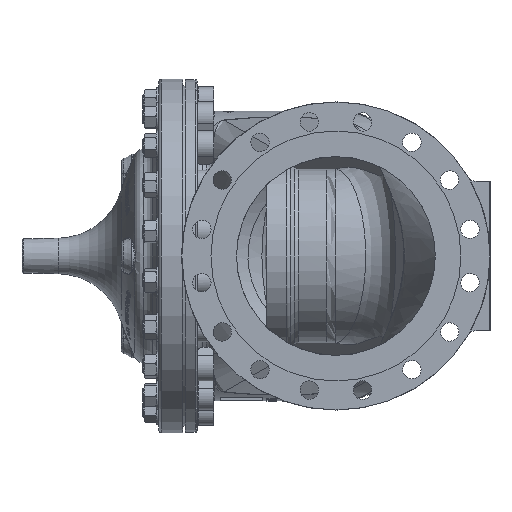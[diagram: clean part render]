
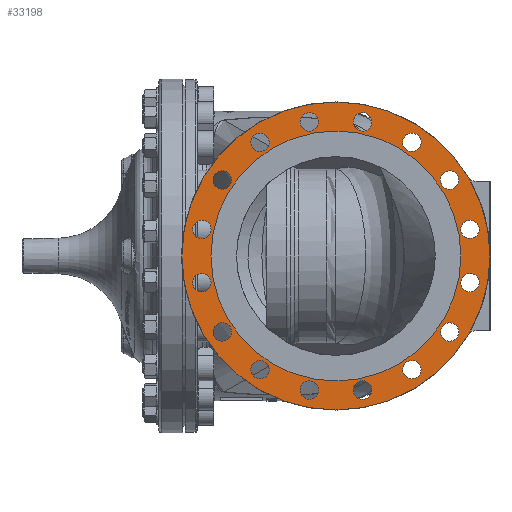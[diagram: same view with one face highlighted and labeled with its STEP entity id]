
A CAD part, left-side view. The second image highlights one B-rep face of the part: STEP entity #33198.
In plain terms, the highlighted planar face has unit normal (-1, 0, 0).
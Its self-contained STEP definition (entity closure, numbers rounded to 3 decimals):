
#5669=FACE_BOUND('',#8076,.T.);
#5670=FACE_BOUND('',#8077,.T.);
#5671=FACE_BOUND('',#8078,.T.);
#5672=FACE_BOUND('',#8079,.T.);
#5673=FACE_BOUND('',#8080,.T.);
#5674=FACE_BOUND('',#8081,.T.);
#5675=FACE_BOUND('',#8082,.T.);
#5676=FACE_BOUND('',#8083,.T.);
#5677=FACE_BOUND('',#8084,.T.);
#5678=FACE_BOUND('',#8085,.T.);
#5679=FACE_BOUND('',#8086,.T.);
#5680=FACE_BOUND('',#8087,.T.);
#5681=FACE_BOUND('',#8088,.T.);
#5682=FACE_BOUND('',#8089,.T.);
#5683=FACE_BOUND('',#8090,.T.);
#5684=FACE_BOUND('',#8091,.T.);
#5685=FACE_BOUND('',#8092,.T.);
#5900=FACE_OUTER_BOUND('',#8075,.T.);
#8075=EDGE_LOOP('',(#21874));
#8076=EDGE_LOOP('',(#21875));
#8077=EDGE_LOOP('',(#21876));
#8078=EDGE_LOOP('',(#21877));
#8079=EDGE_LOOP('',(#21878));
#8080=EDGE_LOOP('',(#21879));
#8081=EDGE_LOOP('',(#21880));
#8082=EDGE_LOOP('',(#21881));
#8083=EDGE_LOOP('',(#21882));
#8084=EDGE_LOOP('',(#21883));
#8085=EDGE_LOOP('',(#21884));
#8086=EDGE_LOOP('',(#21885));
#8087=EDGE_LOOP('',(#21886));
#8088=EDGE_LOOP('',(#21887));
#8089=EDGE_LOOP('',(#21888));
#8090=EDGE_LOOP('',(#21889));
#8091=EDGE_LOOP('',(#21890));
#8092=EDGE_LOOP('',(#21891));
#10377=CIRCLE('',#35361,18.5);
#10379=CIRCLE('',#35364,18.5);
#10381=CIRCLE('',#35367,18.5);
#10383=CIRCLE('',#35370,18.5);
#10385=CIRCLE('',#35373,18.5);
#10387=CIRCLE('',#35376,18.5);
#10389=CIRCLE('',#35379,18.5);
#10391=CIRCLE('',#35382,18.5);
#10393=CIRCLE('',#35385,18.5);
#10395=CIRCLE('',#35388,18.5);
#10397=CIRCLE('',#35391,18.5);
#10399=CIRCLE('',#35394,18.5);
#10401=CIRCLE('',#35397,18.5);
#10403=CIRCLE('',#35400,18.5);
#10405=CIRCLE('',#35403,18.5);
#10407=CIRCLE('',#35406,18.5);
#10465=CIRCLE('',#35487,310.);
#10466=CIRCLE('',#35488,251.5);
#12815=VERTEX_POINT('',#50426);
#12817=VERTEX_POINT('',#50432);
#12819=VERTEX_POINT('',#50438);
#12821=VERTEX_POINT('',#50444);
#12823=VERTEX_POINT('',#50450);
#12825=VERTEX_POINT('',#50456);
#12827=VERTEX_POINT('',#50462);
#12829=VERTEX_POINT('',#50468);
#12831=VERTEX_POINT('',#50474);
#12833=VERTEX_POINT('',#50480);
#12835=VERTEX_POINT('',#50486);
#12837=VERTEX_POINT('',#50492);
#12839=VERTEX_POINT('',#50498);
#12841=VERTEX_POINT('',#50504);
#12843=VERTEX_POINT('',#50510);
#12845=VERTEX_POINT('',#50516);
#12956=VERTEX_POINT('',#51167);
#12957=VERTEX_POINT('',#51169);
#16221=EDGE_CURVE('',#12815,#12815,#10377,.T.);
#16224=EDGE_CURVE('',#12817,#12817,#10379,.T.);
#16227=EDGE_CURVE('',#12819,#12819,#10381,.T.);
#16230=EDGE_CURVE('',#12821,#12821,#10383,.T.);
#16233=EDGE_CURVE('',#12823,#12823,#10385,.T.);
#16236=EDGE_CURVE('',#12825,#12825,#10387,.T.);
#16239=EDGE_CURVE('',#12827,#12827,#10389,.T.);
#16242=EDGE_CURVE('',#12829,#12829,#10391,.T.);
#16245=EDGE_CURVE('',#12831,#12831,#10393,.T.);
#16248=EDGE_CURVE('',#12833,#12833,#10395,.T.);
#16251=EDGE_CURVE('',#12835,#12835,#10397,.T.);
#16254=EDGE_CURVE('',#12837,#12837,#10399,.T.);
#16257=EDGE_CURVE('',#12839,#12839,#10401,.T.);
#16260=EDGE_CURVE('',#12841,#12841,#10403,.T.);
#16263=EDGE_CURVE('',#12843,#12843,#10405,.T.);
#16266=EDGE_CURVE('',#12845,#12845,#10407,.T.);
#16398=EDGE_CURVE('',#12956,#12956,#10465,.T.);
#16399=EDGE_CURVE('',#12957,#12957,#10466,.T.);
#21874=ORIENTED_EDGE('',*,*,#16398,.F.);
#21875=ORIENTED_EDGE('',*,*,#16221,.T.);
#21876=ORIENTED_EDGE('',*,*,#16224,.T.);
#21877=ORIENTED_EDGE('',*,*,#16227,.T.);
#21878=ORIENTED_EDGE('',*,*,#16230,.T.);
#21879=ORIENTED_EDGE('',*,*,#16233,.T.);
#21880=ORIENTED_EDGE('',*,*,#16236,.T.);
#21881=ORIENTED_EDGE('',*,*,#16239,.T.);
#21882=ORIENTED_EDGE('',*,*,#16242,.T.);
#21883=ORIENTED_EDGE('',*,*,#16245,.T.);
#21884=ORIENTED_EDGE('',*,*,#16248,.T.);
#21885=ORIENTED_EDGE('',*,*,#16251,.T.);
#21886=ORIENTED_EDGE('',*,*,#16254,.T.);
#21887=ORIENTED_EDGE('',*,*,#16257,.T.);
#21888=ORIENTED_EDGE('',*,*,#16260,.T.);
#21889=ORIENTED_EDGE('',*,*,#16263,.T.);
#21890=ORIENTED_EDGE('',*,*,#16266,.T.);
#21891=ORIENTED_EDGE('',*,*,#16399,.F.);
#32357=PLANE('',#35486);
#33198=ADVANCED_FACE('',(#5900,#5669,#5670,#5671,#5672,#5673,#5674,#5675,
#5676,#5677,#5678,#5679,#5680,#5681,#5682,#5683,#5684,#5685),#32357,.F.);
#35361=AXIS2_PLACEMENT_3D('',#50427,#39680,#39681);
#35364=AXIS2_PLACEMENT_3D('',#50433,#39687,#39688);
#35367=AXIS2_PLACEMENT_3D('',#50439,#39694,#39695);
#35370=AXIS2_PLACEMENT_3D('',#50445,#39701,#39702);
#35373=AXIS2_PLACEMENT_3D('',#50451,#39708,#39709);
#35376=AXIS2_PLACEMENT_3D('',#50457,#39715,#39716);
#35379=AXIS2_PLACEMENT_3D('',#50463,#39722,#39723);
#35382=AXIS2_PLACEMENT_3D('',#50469,#39729,#39730);
#35385=AXIS2_PLACEMENT_3D('',#50475,#39736,#39737);
#35388=AXIS2_PLACEMENT_3D('',#50481,#39743,#39744);
#35391=AXIS2_PLACEMENT_3D('',#50487,#39750,#39751);
#35394=AXIS2_PLACEMENT_3D('',#50493,#39757,#39758);
#35397=AXIS2_PLACEMENT_3D('',#50499,#39764,#39765);
#35400=AXIS2_PLACEMENT_3D('',#50505,#39771,#39772);
#35403=AXIS2_PLACEMENT_3D('',#50511,#39778,#39779);
#35406=AXIS2_PLACEMENT_3D('',#50517,#39785,#39786);
#35486=AXIS2_PLACEMENT_3D('',#51166,#39982,#39983);
#35487=AXIS2_PLACEMENT_3D('',#51168,#39984,#39985);
#35488=AXIS2_PLACEMENT_3D('',#51170,#39986,#39987);
#39680=DIRECTION('center_axis',(1.,0.,0.));
#39681=DIRECTION('ref_axis',(0.,-0.383,-0.924));
#39687=DIRECTION('center_axis',(1.,0.,0.));
#39688=DIRECTION('ref_axis',(0.,-0.707,-0.707));
#39694=DIRECTION('center_axis',(1.,0.,0.));
#39695=DIRECTION('ref_axis',(0.,-0.924,-0.383));
#39701=DIRECTION('center_axis',(1.,0.,0.));
#39702=DIRECTION('ref_axis',(0.,-1.,0.));
#39708=DIRECTION('center_axis',(1.,0.,0.));
#39709=DIRECTION('ref_axis',(0.,-0.924,0.383));
#39715=DIRECTION('center_axis',(1.,0.,0.));
#39716=DIRECTION('ref_axis',(0.,-0.707,0.707));
#39722=DIRECTION('center_axis',(1.,0.,0.));
#39723=DIRECTION('ref_axis',(0.,-0.383,0.924));
#39729=DIRECTION('center_axis',(1.,0.,0.));
#39730=DIRECTION('ref_axis',(0.,0.,
1.));
#39736=DIRECTION('center_axis',(1.,0.,0.));
#39737=DIRECTION('ref_axis',(0.,0.383,0.924));
#39743=DIRECTION('center_axis',(1.,0.,0.));
#39744=DIRECTION('ref_axis',(0.,0.707,0.707));
#39750=DIRECTION('center_axis',(1.,0.,0.));
#39751=DIRECTION('ref_axis',(0.,0.924,0.383));
#39757=DIRECTION('center_axis',(1.,0.,0.));
#39758=DIRECTION('ref_axis',(0.,1.,0.));
#39764=DIRECTION('center_axis',(1.,0.,0.));
#39765=DIRECTION('ref_axis',(0.,0.924,-0.383));
#39771=DIRECTION('center_axis',(1.,0.,0.));
#39772=DIRECTION('ref_axis',(0.,0.707,-0.707));
#39778=DIRECTION('center_axis',(1.,0.,0.));
#39779=DIRECTION('ref_axis',(0.,0.383,-0.924));
#39785=DIRECTION('center_axis',(1.,0.,0.));
#39786=DIRECTION('ref_axis',(0.,0.,
-1.));
#39982=DIRECTION('center_axis',(1.,0.,0.));
#39983=DIRECTION('ref_axis',(0.,0.,
-1.));
#39984=DIRECTION('center_axis',(1.,0.,0.));
#39985=DIRECTION('ref_axis',(0.,0.,
-1.));
#39986=DIRECTION('center_axis',(-1.,0.,0.));
#39987=DIRECTION('ref_axis',(0.,0.,
-1.));
#50426=CARTESIAN_POINT('',(-546.,-471.789,245.746));
#50427=CARTESIAN_POINT('Origin',(-546.,-478.868,228.654));
#50432=CARTESIAN_POINT('',(-546.,-389.914,165.863));
#50433=CARTESIAN_POINT('Origin',(-546.,-402.996,152.782));
#50438=CARTESIAN_POINT('',(-546.,-344.842,60.729));
#50439=CARTESIAN_POINT('Origin',(-546.,-361.934,53.65));
#50444=CARTESIAN_POINT('',(-546.,-343.434,-53.65));
#50445=CARTESIAN_POINT('Origin',(-546.,-361.934,-53.65));
#50450=CARTESIAN_POINT('',(-546.,-385.904,-159.861));
#50451=CARTESIAN_POINT('Origin',(-546.,-402.996,-152.782));
#50456=CARTESIAN_POINT('',(-546.,-465.787,-241.736));
#50457=CARTESIAN_POINT('Origin',(-546.,-478.868,-228.654));
#50462=CARTESIAN_POINT('',(-546.,-570.921,-286.808));
#50463=CARTESIAN_POINT('Origin',(-546.,-578.,-269.716));
#50468=CARTESIAN_POINT('',(-546.,-685.3,-288.216));
#50469=CARTESIAN_POINT('Origin',(-546.,-685.3,-269.716));
#50474=CARTESIAN_POINT('',(-546.,-791.511,-245.746));
#50475=CARTESIAN_POINT('Origin',(-546.,-784.432,-228.654));
#50480=CARTESIAN_POINT('',(-546.,-873.386,-165.863));
#50481=CARTESIAN_POINT('Origin',(-546.,-860.304,-152.782));
#50486=CARTESIAN_POINT('',(-546.,-918.458,-60.729));
#50487=CARTESIAN_POINT('Origin',(-546.,-901.366,-53.65));
#50492=CARTESIAN_POINT('',(-546.,-919.866,53.65));
#50493=CARTESIAN_POINT('Origin',(-546.,-901.366,53.65));
#50498=CARTESIAN_POINT('',(-546.,-877.396,159.861));
#50499=CARTESIAN_POINT('Origin',(-546.,-860.304,152.782));
#50504=CARTESIAN_POINT('',(-546.,-797.513,241.736));
#50505=CARTESIAN_POINT('Origin',(-546.,-784.432,228.654));
#50510=CARTESIAN_POINT('',(-546.,-692.379,286.808));
#50511=CARTESIAN_POINT('Origin',(-546.,-685.3,269.716));
#50516=CARTESIAN_POINT('',(-546.,-578.,288.216));
#50517=CARTESIAN_POINT('Origin',(-546.,-578.,269.716));
#51166=CARTESIAN_POINT('Origin',(-546.,-631.65,0.));
#51167=CARTESIAN_POINT('',(-546.,-631.65,310.));
#51168=CARTESIAN_POINT('Origin',(-546.,-631.65,0.));
#51169=CARTESIAN_POINT('',(-546.,-631.65,251.5));
#51170=CARTESIAN_POINT('Origin',(-546.,-631.65,0.));
